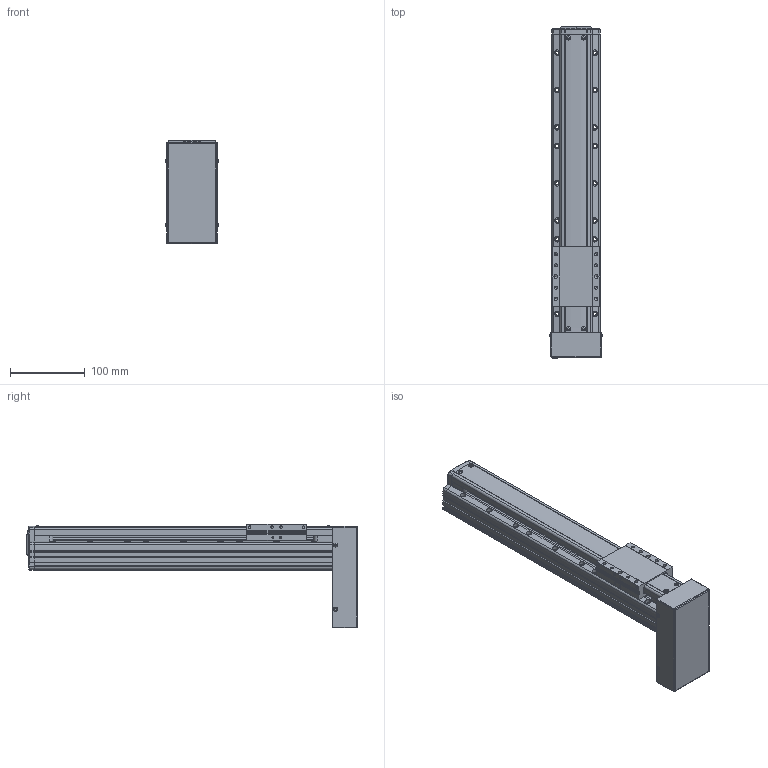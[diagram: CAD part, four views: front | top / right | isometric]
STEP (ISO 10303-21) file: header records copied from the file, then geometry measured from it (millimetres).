
FILE_DESCRIPTION(('STEP AP214'),'1');
FILE_NAME('Z:/Web/3D/PSA65/STP/PSA65-250 (3D)/PSA65ㅁㅁ-250PB.stp','2014-06-25T03:44:47',(' '),(' '),'Spatial InterOp 3D',' ',' ');
FILE_SCHEMA(('automotive_design'));
Length unit declared in the file: millimetre
Products named in the file (49): SLIDE; RRCV-PA060; 1; 2; 3; 4; 5; 6; 7; 8; 9; 10; 11; 12; 13; 14; 15; 16; 17; 18; 19; 20; 21; 22; 23; 24; 25; 26; 27; 28; 29; 30; 31; 스크루 : Round - M3.0 x 8.0; RN8 x 0.75; SHAFT-SAN65; BASE; 스크루 : Round - M3.0 x 6.0; BTCV-SAN65; M3.0 x 6.0
Bounding box: 71.13 x 444.8 x 139 mm (x, y, z)
Volume: 1575597.4 mm3; surface area: 219154.7 mm2
Topology: 49 solids, 49 shells, 1755 faces, 4647 edges, 2960 vertices
Faces by surface type: plane 1038, cylinder 485, cone 167, sphere 30, bspline 19, torus 16
Entity records: 69648 total; most frequent: CARTESIAN_POINT 10992, DIRECTION 9262, ORIENTED_EDGE 9058, EDGE_CURVE 4529, LINE 3202, VECTOR 3202, AXIS2_PLACEMENT_3D 3030, VERTEX_POINT 2960
